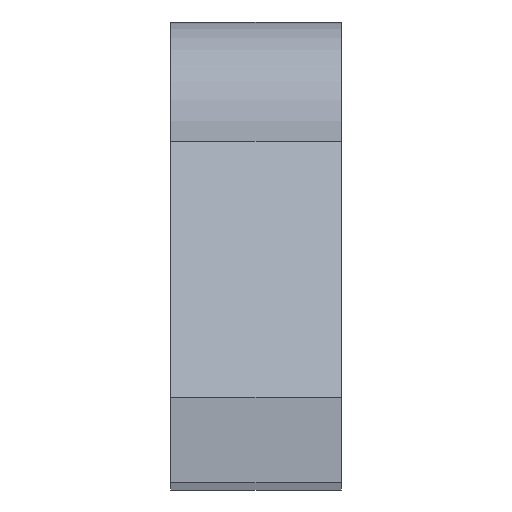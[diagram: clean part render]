
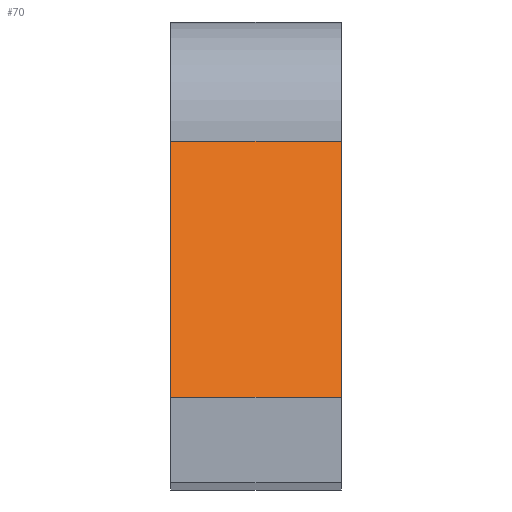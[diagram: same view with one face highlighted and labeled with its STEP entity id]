
A CAD part, top view. The second image highlights one B-rep face of the part: STEP entity #70.
In plain terms, the highlighted planar face has unit normal (0, 0.371, 0.928).
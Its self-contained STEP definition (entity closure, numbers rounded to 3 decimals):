
#7 = DIRECTION ( 'NONE',  ( -1., 0., 0. ) ) ;
#20 = VERTEX_POINT ( 'NONE', #362 ) ;
#31 = CARTESIAN_POINT ( 'NONE',  ( 5., 17.5, 117. ) ) ;
#41 = DIRECTION ( 'NONE',  ( 0., -0.928, 0.371 ) ) ;
#70 = ADVANCED_FACE ( 'NONE', ( #89 ), #192, .F. ) ;
#80 = VERTEX_POINT ( 'NONE', #161 ) ;
#89 = FACE_OUTER_BOUND ( 'NONE', #187, .T. ) ;
#98 = EDGE_CURVE ( 'NONE', #429, #353, #408, .T. ) ;
#104 = CARTESIAN_POINT ( 'NONE',  ( -5., 17.5, 117. ) ) ;
#123 = CARTESIAN_POINT ( 'NONE',  ( 5., 2.5, 123. ) ) ;
#134 = DIRECTION ( 'NONE',  ( 0., 0.928, -0.371 ) ) ;
#157 = CARTESIAN_POINT ( 'NONE',  ( 5., 2.5, 123. ) ) ;
#161 = CARTESIAN_POINT ( 'NONE',  ( 5., 17.5, 117. ) ) ;
#171 = VECTOR ( 'NONE', #7, 1000. ) ;
#179 = EDGE_CURVE ( 'NONE', #80, #429, #375, .T. ) ;
#187 = EDGE_LOOP ( 'NONE', ( #321, #351, #396, #212 ) ) ;
#192 = PLANE ( 'NONE',  #268 ) ;
#211 = LINE ( 'NONE', #344, #171 ) ;
#212 = ORIENTED_EDGE ( 'NONE', *, *, #289, .T. ) ;
#254 = EDGE_CURVE ( 'NONE', #20, #353, #274, .T. ) ;
#268 = AXIS2_PLACEMENT_3D ( 'NONE', #31, #324, #134 ) ;
#271 = VECTOR ( 'NONE', #303, 1000. ) ;
#274 = LINE ( 'NONE', #104, #387 ) ;
#289 = EDGE_CURVE ( 'NONE', #80, #20, #211, .T. ) ;
#303 = DIRECTION ( 'NONE',  ( 0., -0.928, 0.371 ) ) ;
#321 = ORIENTED_EDGE ( 'NONE', *, *, #254, .T. ) ;
#324 = DIRECTION ( 'NONE',  ( 0., -0.371, -0.928 ) ) ;
#326 = DIRECTION ( 'NONE',  ( -1., 0., 0. ) ) ;
#344 = CARTESIAN_POINT ( 'NONE',  ( 5., 17.5, 117. ) ) ;
#351 = ORIENTED_EDGE ( 'NONE', *, *, #98, .F. ) ;
#352 = CARTESIAN_POINT ( 'NONE',  ( -5., 2.5, 123. ) ) ;
#353 = VERTEX_POINT ( 'NONE', #352 ) ;
#354 = VECTOR ( 'NONE', #326, 1000. ) ;
#362 = CARTESIAN_POINT ( 'NONE',  ( -5., 17.5, 117. ) ) ;
#375 = LINE ( 'NONE', #407, #271 ) ;
#387 = VECTOR ( 'NONE', #41, 1000. ) ;
#396 = ORIENTED_EDGE ( 'NONE', *, *, #179, .F. ) ;
#407 = CARTESIAN_POINT ( 'NONE',  ( 5., 17.5, 117. ) ) ;
#408 = LINE ( 'NONE', #123, #354 ) ;
#429 = VERTEX_POINT ( 'NONE', #157 ) ;
